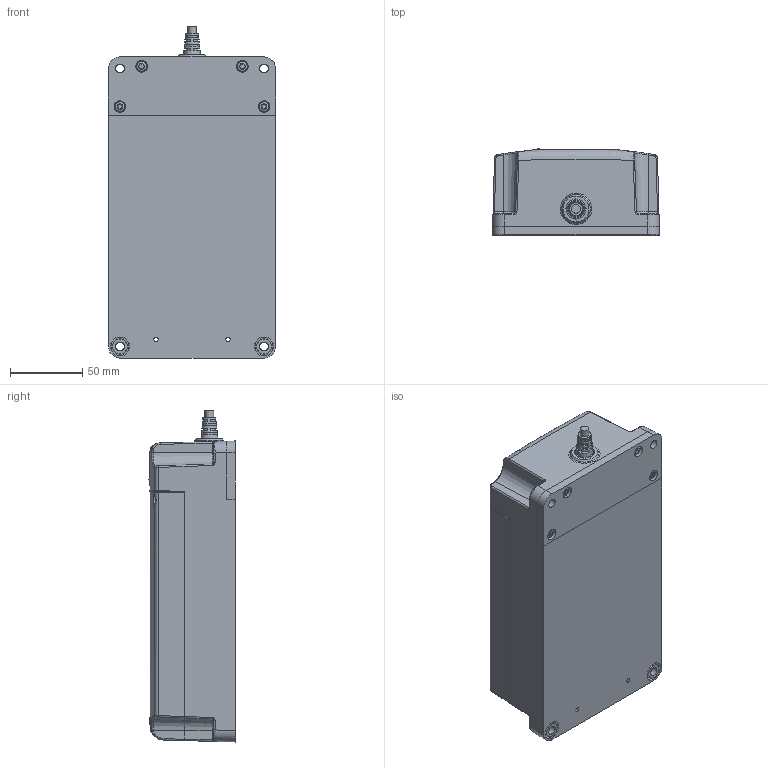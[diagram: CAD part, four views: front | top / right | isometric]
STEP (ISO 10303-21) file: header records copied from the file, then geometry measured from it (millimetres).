
FILE_DESCRIPTION (( 'STEP AP203' ), '1' );
FILE_NAME ('TBB5-A.STEP', '2017-01-13T03:14:50', ( '' ), ( '' ), 'SwSTEP 2.0', 'SolidWorks 2015', '' );
FILE_SCHEMA (( 'CONFIG_CONTROL_DESIGN' ));
Length unit declared in the file: millimetre
Products named in the file (1): TBB5-A
Bounding box: 116 x 60 x 230.5 mm (x, y, z)
Volume: 1340705.8 mm3; surface area: 143810.5 mm2
Topology: 12 solids, 12 shells, 520 faces, 1311 edges, 839 vertices
Faces by surface type: plane 229, cylinder 169, bspline 69, cone 32, torus 20, sphere 1
Full cylindrical faces by diameter (mm): 3 x4, 3.8 x1, 4 x1, 6 x1, 7.3 x8, 8 x8, 14 x2
Entity records: 19065 total; most frequent: CARTESIAN_POINT 7234, ORIENTED_EDGE 2478, DIRECTION 2330, EDGE_CURVE 1239, AXIS2_PLACEMENT_3D 855, VERTEX_POINT 821, EDGE_LOOP 634, LINE 620
